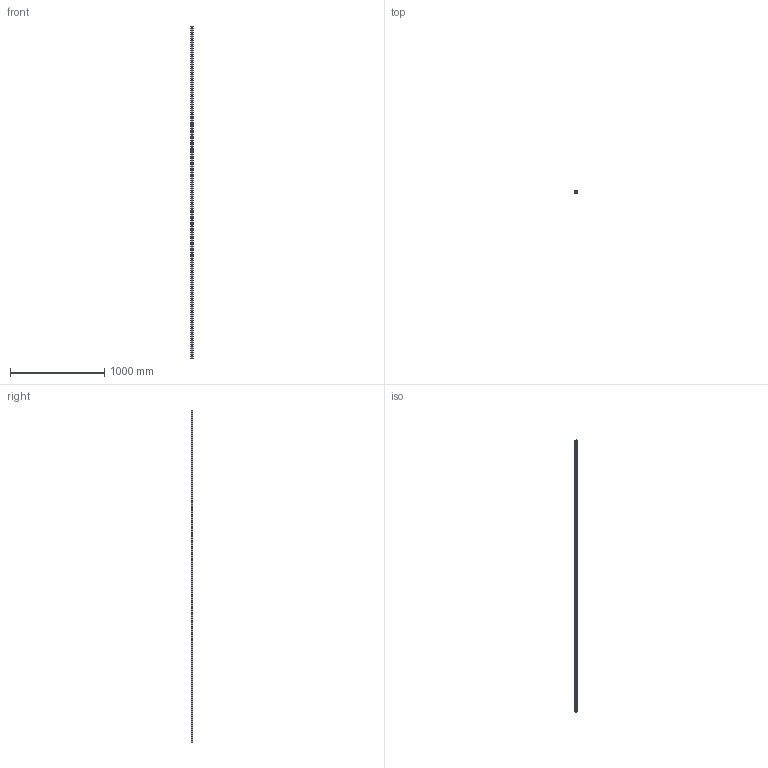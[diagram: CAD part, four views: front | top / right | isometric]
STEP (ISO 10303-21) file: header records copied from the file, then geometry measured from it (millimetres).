
FILE_DESCRIPTION (( 'STEP AP203' ), '1' );
FILE_NAME ('L1016.BL25-3520.step', '2019-06-12T12:15:34', ( '' ), ( '' ), 'SwSTEP 2.0', 'SolidWorks 2017', '' );
FILE_SCHEMA (( 'CONFIG_CONTROL_DESIGN' ));
Length unit declared in the file: millimetre
Products named in the file (1): L1016.BL25-3520
Bounding box: 23 x 19.2 x 3520 mm (x, y, z)
Volume: 1297243.2 mm3; surface area: 332874.9 mm2
Topology: 1 solids, 1 shells, 321 faces, 780 edges, 520 vertices
Faces by surface type: cylinder 240, plane 81
Entity records: 9987 total; most frequent: DIRECTION 1904, CARTESIAN_POINT 1622, ORIENTED_EDGE 1560, AXIS2_PLACEMENT_3D 802, EDGE_CURVE 780, VERTEX_POINT 520, EDGE_LOOP 498, CIRCLE 480
